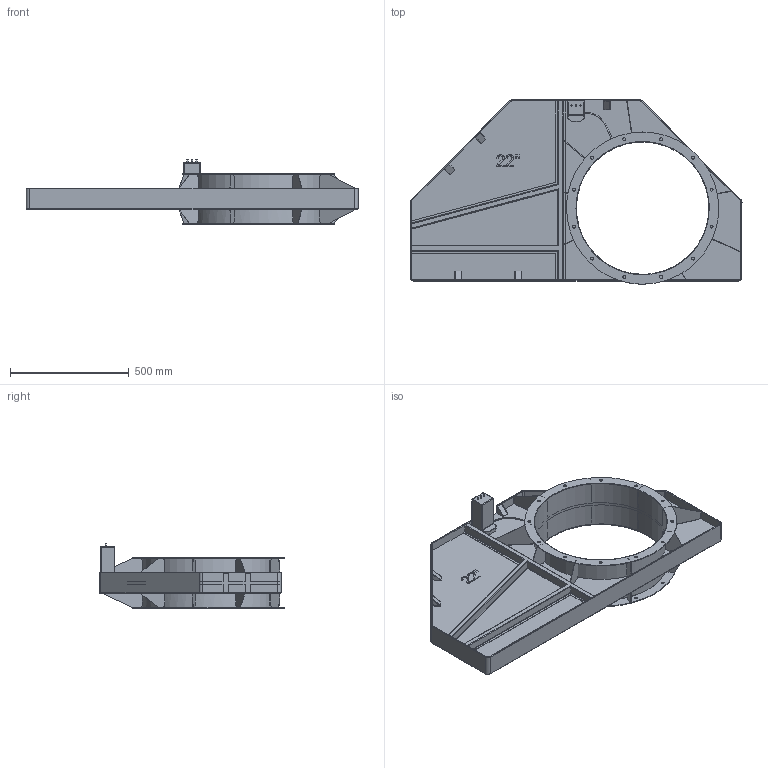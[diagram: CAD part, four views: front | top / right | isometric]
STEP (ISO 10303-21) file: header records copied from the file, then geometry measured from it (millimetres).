
FILE_DESCRIPTION( ('This file contains a STEP AP42 implementation' ,'as created by ZW3D STEP Interface translator.') ,'2;1' );
FILE_NAME( '3D Model-HO222 Body with drive.stp' ,'20 713.114821', (''), ('ZWCAD Software Co.'), 'Version 1.0', 'ZW3D to STEP translator', '' );
FILE_SCHEMA(('AUTOMOTIVE_DESIGN'));
Length unit declared in the file: millimetre
Products named in the file (1): 0
Bounding box: 1396.23 x 775.77 x 271.8 mm (x, y, z)
Volume: 14943323.5 mm3; surface area: 3573702.6 mm2
Topology: 32 solids, 32 shells, 1481 faces, 3963 edges, 2753 vertices
Faces by surface type: bspline 1481
Entity records: 47891 total; most frequent: CARTESIAN_POINT 23608, ORIENTED_EDGE 7620, EDGE_CURVE 3810, B_SPLINE_CURVE_WITH_KNOTS 2983, VERTEX_POINT 2450, EDGE_LOOP 1592, FACE_OUTER_BOUND 1481, ADVANCED_FACE 1481
